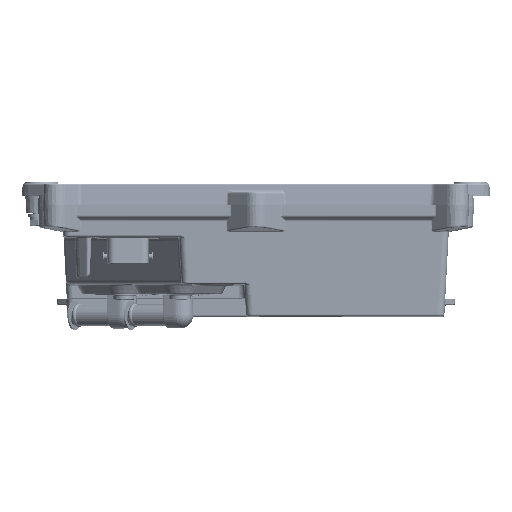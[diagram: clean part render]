
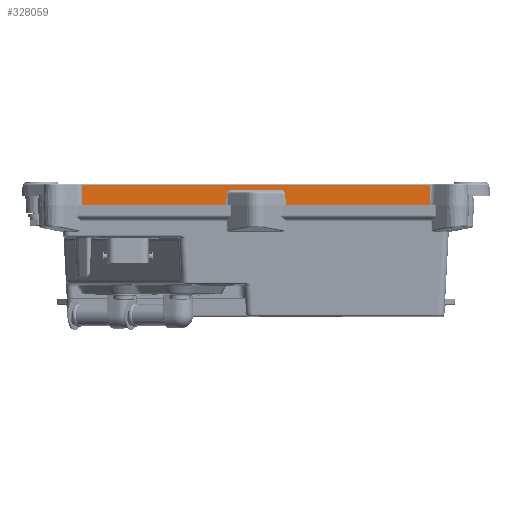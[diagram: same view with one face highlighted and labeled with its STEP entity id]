
A CAD part, top view. The second image highlights one B-rep face of the part: STEP entity #328059.
In plain terms, the highlighted planar face has unit normal (0, 0.052, 0.999).
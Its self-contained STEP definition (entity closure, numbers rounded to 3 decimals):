
#1256 = ORIENTED_EDGE ( 'NONE', *, *, #198161, .T. ) ;
#3324 = DIRECTION ( 'NONE',  ( 0., 0.052, 0.999 ) ) ;
#18343 = VERTEX_POINT ( 'NONE', #166747 ) ;
#22007 =( BOUNDED_CURVE ( )  B_SPLINE_CURVE ( 3, ( #273352, #45320, #23152, #247838 ),
 .UNSPECIFIED., .F., .F. ) 
 B_SPLINE_CURVE_WITH_KNOTS ( ( 4, 4 ),
 ( 6.262, 6.283 ),
 .UNSPECIFIED. ) 
 CURVE ( )  GEOMETRIC_REPRESENTATION_ITEM ( )  RATIONAL_B_SPLINE_CURVE ( ( 1., 1., 1., 1. ) ) 
 REPRESENTATION_ITEM ( '' )  );
#22209 = DIRECTION ( 'NONE',  ( 1., 0., 0. ) ) ;
#23152 = CARTESIAN_POINT ( 'NONE',  ( -17.78, 7.088, 170.129 ) ) ;
#26904 = CARTESIAN_POINT ( 'NONE',  ( 105.293, 12.052, 169.868 ) ) ;
#33293 = VERTEX_POINT ( 'NONE', #48705 ) ;
#33504 = DIRECTION ( 'NONE',  ( 0.022, 0.998, -0.052 ) ) ;
#38099 = CARTESIAN_POINT ( 'NONE',  ( -14.375, 9.421, 170.006 ) ) ;
#45320 = CARTESIAN_POINT ( 'NONE',  ( -17.781, 7.07, 170.129 ) ) ;
#46998 = ORIENTED_EDGE ( 'NONE', *, *, #288948, .T. ) ;
#48705 = CARTESIAN_POINT ( 'NONE',  ( -17.779, 7.106, 170.128 ) ) ;
#55153 = CARTESIAN_POINT ( 'NONE',  ( -104.982, -2.273, 170.619 ) ) ;
#56826 = EDGE_CURVE ( 'NONE', #158832, #102168, #311511, .T. ) ;
#57310 = VECTOR ( 'NONE', #270472, 1000. ) ;
#59316 = LINE ( 'NONE', #83156, #134528 ) ;
#60085 = EDGE_CURVE ( 'NONE', #133732, #193849, #108678, .T. ) ;
#60495 = LINE ( 'NONE', #173735, #199227 ) ;
#61714 = EDGE_CURVE ( 'NONE', #253671, #133732, #60495, .T. ) ;
#81429 = VERTEX_POINT ( 'NONE', #202977 ) ;
#83156 = CARTESIAN_POINT ( 'NONE',  ( -17.926, 0.388, 170.48 ) ) ;
#86449 = LINE ( 'NONE', #156561, #229004 ) ;
#86552 = FACE_OUTER_BOUND ( 'NONE', #216975, .T. ) ;
#93741 = ORIENTED_EDGE ( 'NONE', *, *, #272395, .T. ) ;
#95282 = ORIENTED_EDGE ( 'NONE', *, *, #132222, .T. ) ;
#95364 = ORIENTED_EDGE ( 'NONE', *, *, #193891, .T. ) ;
#102168 = VERTEX_POINT ( 'NONE', #269573 ) ;
#103317 = ORIENTED_EDGE ( 'NONE', *, *, #60085, .T. ) ;
#108678 = LINE ( 'NONE', #250429, #57310 ) ;
#110830 = CARTESIAN_POINT ( 'NONE',  ( 14.375, 9.421, 170.006 ) ) ;
#113538 = VERTEX_POINT ( 'NONE', #214045 ) ;
#120648 = CARTESIAN_POINT ( 'NONE',  ( 17.926, 0.388, 170.48 ) ) ;
#120775 = DIRECTION ( 'NONE',  ( 1., 0., 0. ) ) ;
#122582 = CARTESIAN_POINT ( 'NONE',  ( 17.781, 7.052, 170.13 ) ) ;
#130128 = VECTOR ( 'NONE', #176817, 1000. ) ;
#132222 = EDGE_CURVE ( 'NONE', #18343, #113538, #186743, .T. ) ;
#133732 = VERTEX_POINT ( 'NONE', #297510 ) ;
#134528 = VECTOR ( 'NONE', #33504, 1000. ) ;
#136539 = CARTESIAN_POINT ( 'NONE',  ( -17.779, 7.106, 170.128 ) ) ;
#139847 = CARTESIAN_POINT ( 'NONE',  ( -105.293, 12.052, 169.868 ) ) ;
#144835 = VECTOR ( 'NONE', #304458, 1000. ) ;
#144965 = ORIENTED_EDGE ( 'NONE', *, *, #163318, .T. ) ;
#153554 = CARTESIAN_POINT ( 'NONE',  ( 0., 12.052, 169.868 ) ) ;
#153946 = ORIENTED_EDGE ( 'NONE', *, *, #210993, .T. ) ;
#154854 = CARTESIAN_POINT ( 'NONE',  ( 0., 0., 170.5 ) ) ;
#156561 = CARTESIAN_POINT ( 'NONE',  ( -113.5, 0., 170.5 ) ) ;
#158832 = VERTEX_POINT ( 'NONE', #139847 ) ;
#159338 = VERTEX_POINT ( 'NONE', #122582 ) ;
#162945 = VECTOR ( 'NONE', #120775, 1000. ) ;
#163318 = EDGE_CURVE ( 'NONE', #159338, #253671, #306725, .T. ) ;
#166747 = CARTESIAN_POINT ( 'NONE',  ( -14.375, 9.421, 170.006 ) ) ;
#173735 = CARTESIAN_POINT ( 'NONE',  ( -113.5, 0., 170.5 ) ) ;
#176817 = DIRECTION ( 'NONE',  ( -1., 0., 0. ) ) ;
#178104 = PLANE ( 'NONE',  #282899 ) ;
#181340 = DIRECTION ( 'NONE',  ( 0., -0.999, 0.052 ) ) ;
#186743 = LINE ( 'NONE', #250417, #162945 ) ;
#188307 = ORIENTED_EDGE ( 'NONE', *, *, #61714, .T. ) ;
#189611 = CARTESIAN_POINT ( 'NONE',  ( -16.326, 9.421, 170.006 ) ) ;
#193849 = VERTEX_POINT ( 'NONE', #26904 ) ;
#193891 = EDGE_CURVE ( 'NONE', #81429, #321806, #59316, .T. ) ;
#198161 = EDGE_CURVE ( 'NONE', #33293, #18343, #265160, .T. ) ;
#199227 = VECTOR ( 'NONE', #22209, 1000. ) ;
#200505 = ORIENTED_EDGE ( 'NONE', *, *, #56826, .T. ) ;
#202977 = CARTESIAN_POINT ( 'NONE',  ( -17.934, 0., 170.5 ) ) ;
#207515 = CARTESIAN_POINT ( 'NONE',  ( -17.781, 7.052, 170.13 ) ) ;
#209280 = LINE ( 'NONE', #153554, #130128 ) ;
#210993 = EDGE_CURVE ( 'NONE', #102168, #81429, #86449, .T. ) ;
#213494 = EDGE_CURVE ( 'NONE', #113538, #159338, #218177, .T. ) ;
#213781 = CARTESIAN_POINT ( 'NONE',  ( 17.751, 8.455, 170.057 ) ) ;
#214045 = CARTESIAN_POINT ( 'NONE',  ( 14.375, 9.421, 170.006 ) ) ;
#216975 = EDGE_LOOP ( 'NONE', ( #103317, #46998, #200505, #153946, #95364, #93741, #1256, #95282, #250857, #144965, #188307 ) ) ;
#218177 =( BOUNDED_CURVE ( )  B_SPLINE_CURVE ( 3, ( #110830, #239249, #213781, #314779 ),
 .UNSPECIFIED., .F., .F. ) 
 B_SPLINE_CURVE_WITH_KNOTS ( ( 4, 4 ),
 ( 1.645, 3.163 ),
 .UNSPECIFIED. ) 
 CURVE ( )  GEOMETRIC_REPRESENTATION_ITEM ( )  RATIONAL_B_SPLINE_CURVE ( ( 1., 0.817, 0.817, 1. ) ) 
 REPRESENTATION_ITEM ( '' )  );
#229004 = VECTOR ( 'NONE', #306204, 1000. ) ;
#239249 = CARTESIAN_POINT ( 'NONE',  ( 16.361, 9.421, 170.006 ) ) ;
#247838 = CARTESIAN_POINT ( 'NONE',  ( -17.779, 7.106, 170.128 ) ) ;
#250417 = CARTESIAN_POINT ( 'NONE',  ( 0., 9.421, 170.006 ) ) ;
#250429 = CARTESIAN_POINT ( 'NONE',  ( 104.982, -2.273, 170.619 ) ) ;
#250857 = ORIENTED_EDGE ( 'NONE', *, *, #213494, .T. ) ;
#253671 = VERTEX_POINT ( 'NONE', #265126 ) ;
#265126 = CARTESIAN_POINT ( 'NONE',  ( 17.934, 0., 170.5 ) ) ;
#265160 =( BOUNDED_CURVE ( )  B_SPLINE_CURVE ( 3, ( #136539, #313848, #189611, #38099 ),
 .UNSPECIFIED., .F., .F. ) 
 B_SPLINE_CURVE_WITH_KNOTS ( ( 4, 4 ),
 ( 0., 1.497 ),
 .UNSPECIFIED. ) 
 CURVE ( )  GEOMETRIC_REPRESENTATION_ITEM ( )  RATIONAL_B_SPLINE_CURVE ( ( 1., 0.822, 0.822, 1. ) ) 
 REPRESENTATION_ITEM ( '' )  );
#269573 = CARTESIAN_POINT ( 'NONE',  ( -105.032, 0., 170.5 ) ) ;
#270472 = DIRECTION ( 'NONE',  ( 0.022, 0.998, -0.052 ) ) ;
#272395 = EDGE_CURVE ( 'NONE', #321806, #33293, #22007, .T. ) ;
#273352 = CARTESIAN_POINT ( 'NONE',  ( -17.781, 7.052, 170.13 ) ) ;
#274821 = VECTOR ( 'NONE', #306908, 1000. ) ;
#282899 = AXIS2_PLACEMENT_3D ( 'NONE', #154854, #3324, #181340 ) ;
#288948 = EDGE_CURVE ( 'NONE', #193849, #158832, #209280, .T. ) ;
#297510 = CARTESIAN_POINT ( 'NONE',  ( 105.032, 0., 170.5 ) ) ;
#304458 = DIRECTION ( 'NONE',  ( 0.022, -0.998, 0.052 ) ) ;
#306204 = DIRECTION ( 'NONE',  ( 1., 0., 0. ) ) ;
#306725 = LINE ( 'NONE', #120648, #274821 ) ;
#306908 = DIRECTION ( 'NONE',  ( 0.022, -0.998, 0.052 ) ) ;
#311511 = LINE ( 'NONE', #55153, #144835 ) ;
#313848 = CARTESIAN_POINT ( 'NONE',  ( -17.707, 8.482, 170.055 ) ) ;
#314779 = CARTESIAN_POINT ( 'NONE',  ( 17.781, 7.052, 170.13 ) ) ;
#321806 = VERTEX_POINT ( 'NONE', #207515 ) ;
#328059 = ADVANCED_FACE ( 'NONE', ( #86552 ), #178104, .T. ) ;
